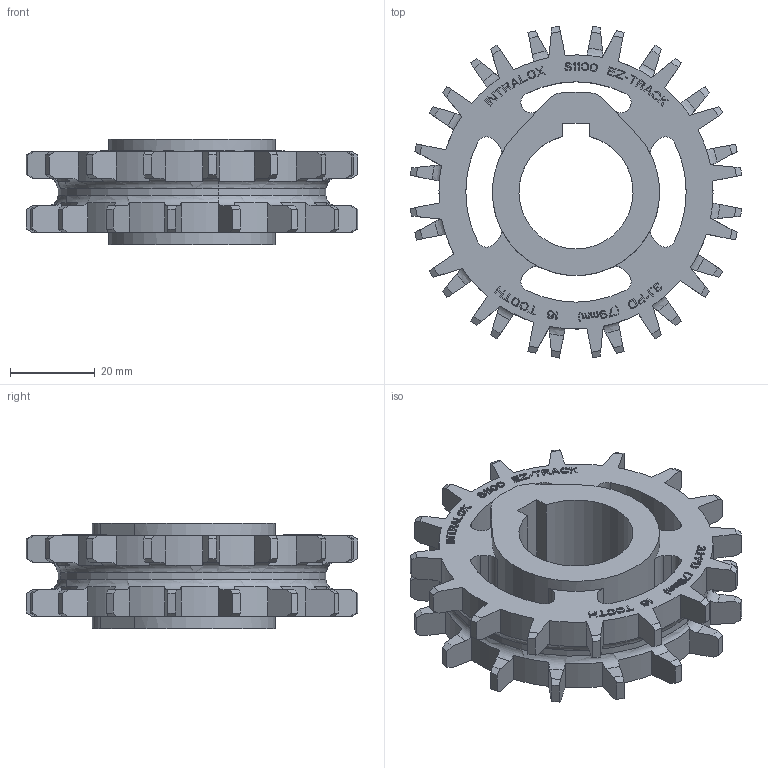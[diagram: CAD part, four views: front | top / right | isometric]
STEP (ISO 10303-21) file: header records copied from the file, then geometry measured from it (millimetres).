
FILE_DESCRIPTION((''),'2;1');
FILE_NAME('S1100_EZ_TRACK_CLEAN_31X1_PILOT','2008-12-12T',('jmumphre'),(''),'PRO/ENGINEER BY PARAMETRIC TECHNOLOGY CORPORATION, 2008150','PRO/ENGINEER BY PARAMETRIC TECHNOLOGY CORPORATION, 2008150','');
FILE_SCHEMA(('CONFIG_CONTROL_DESIGN'));
Length unit declared in the file: inch
Products named in the file (1): S1100_EZ_TRACK_CLEAN_31X1_PILOT
Bounding box: 78.49 x 78.49 x 24.89 mm (x, y, z)
Volume: 48480.5 mm3; surface area: 19480.6 mm2
Topology: 1 solids, 1 shells, 1204 faces, 3452 edges, 2300 vertices
Faces by surface type: plane 1110, cylinder 58, cone 32, torus 4
Entity records: 39336 total; most frequent: CARTESIAN_POINT 7864, ORIENTED_EDGE 6904, DIRECTION 5888, EDGE_CURVE 3452, VECTOR 3096, LINE 3096, VERTEX_POINT 2300, AXIS2_PLACEMENT_3D 1396
